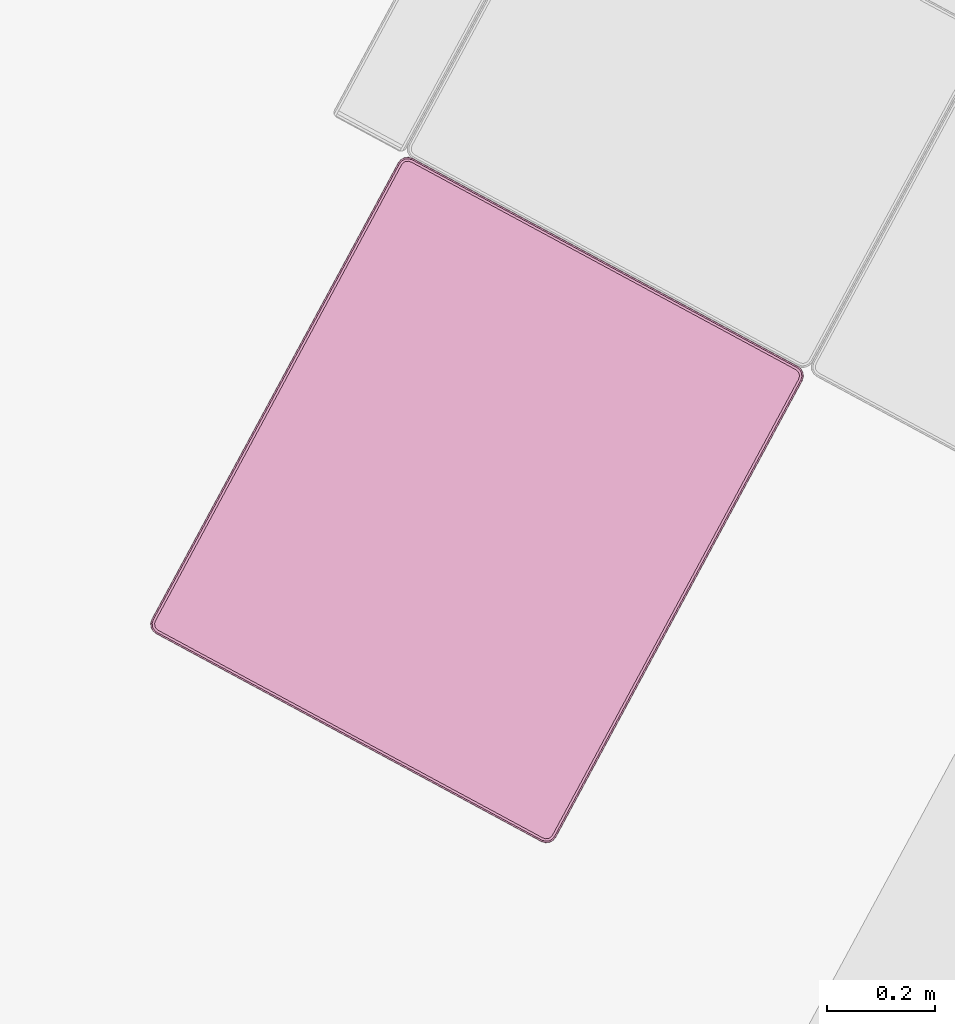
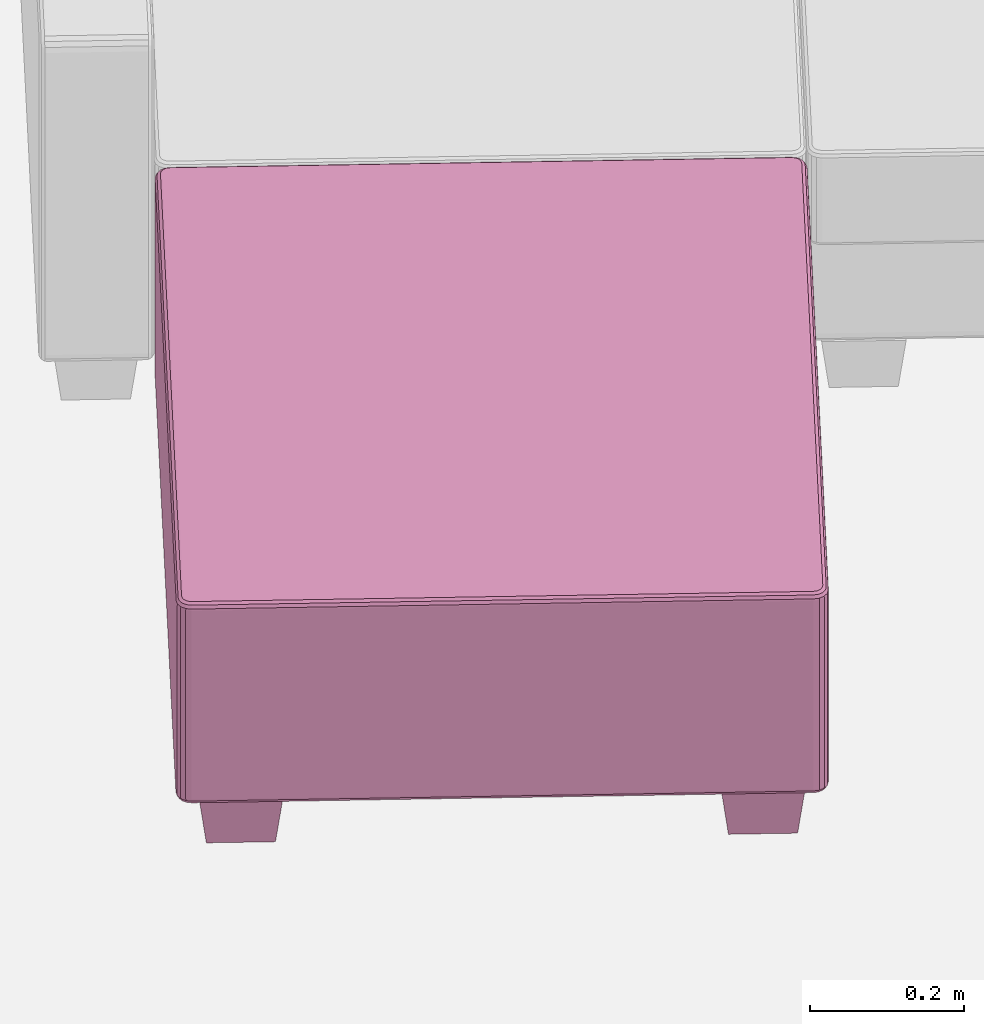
# One storey, part 28 of 36: 1 furnishing.
"""IFC2X3 building model written with IfcOpenShell, lengths in metres."""

from ifc_helpers import new_model, entity, si_unit, converted_unit, derived_unit, money_unit, direction, frame, origin_with_axes, place, context, subcontext, project, spatial, faceted_brep, type_object, element, save


model = new_model("IFC2X3")

# Units and contexts
model_context = context("Model", 3, precision=1e-05, world=origin_with_axes(), true_north=direction((0.0, 1.0)))
body_context = subcontext(model_context, "Body", "Model", "MODEL_VIEW")
ifc_project = project(units=[si_unit("LENGTHUNIT", "METRE"), si_unit("AREAUNIT", "SQUARE_METRE"), si_unit("VOLUMEUNIT", "CUBIC_METRE"), converted_unit("PLANEANGLEUNIT", "DEGREE", entity("IfcPlaneAngleMeasure", 0.0174532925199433), si_unit("PLANEANGLEUNIT", "RADIAN"), dimensions=[0, 0, 0, 0, 0, 0, 0]), money_unit("EUR"), converted_unit("TIMEUNIT", "Year", entity("IfcTimeMeasure", 31556926.0), si_unit("TIMEUNIT", "SECOND"), dimensions=[0, 0, 1, 0, 0, 0, 0]), si_unit("MASSUNIT", "GRAM", prefix="KILO"), si_unit("THERMODYNAMICTEMPERATUREUNIT", "DEGREE_CELSIUS"), si_unit("LUMINOUSINTENSITYUNIT", "LUMEN"), si_unit("ENERGYUNIT", "JOULE", prefix="MEGA"), derived_unit("THERMALCONDUCTANCEUNIT", [(si_unit("POWERUNIT", "WATT"), 1), (si_unit("LENGTHUNIT", "METRE"), -1), (si_unit("THERMODYNAMICTEMPERATUREUNIT", "KELVIN"), -1)]), derived_unit("SPECIFICHEATCAPACITYUNIT", [(si_unit("ENERGYUNIT", "JOULE"), 1), (si_unit("MASSUNIT", "GRAM", prefix="KILO"), -1), (si_unit("THERMODYNAMICTEMPERATUREUNIT", "KELVIN"), -1)]), derived_unit("MASSDENSITYUNIT", [(si_unit("MASSUNIT", "GRAM", prefix="KILO"), 1), (si_unit("VOLUMEUNIT", "CUBIC_METRE"), -1)])], contexts=[model_context])

# Site, building, storey
site_placement = place(None, frame((-3.949935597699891, 1.740105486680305, 0.0), z_axis=(0.0, 0.0, 1.0), x_axis=(0.8799804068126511, -0.475009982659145, 0.0)))
site = spatial("IfcSite", under=ifc_project, at=site_placement, Name="Gelände", CompositionType="ELEMENT")
building_placement = place(site_placement, origin_with_axes())
building = spatial("IfcBuilding", under=site, at=building_placement, Name="Gebäude", CompositionType="ELEMENT")
storey_placement = place(building_placement, origin_with_axes())
storey = spatial("IfcBuildingStorey", under=building, at=storey_placement, Name="Erdgeschoss", CompositionType="ELEMENT", Elevation=0.0)

# Furnishing
furniture_type = type_object("IfcFurnitureType", Name="Sofa Set 01 17", AssemblyPlace="NOTDEFINED")
furnishing_placement = place(storey_placement, frame((6.702306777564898, 4.766019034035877, 0.0), z_axis=(0.0, 0.0, 1.0), x_axis=(0.0, 1.0, 0.0)))
element("IfcFurnishingElement", 1, at=furnishing_placement, inside=storey, type_object=furniture_type, Name="Objekt-0089", ObjectType="FURNITURE", context=body_context, shape_type="Brep", body=[
    faceted_brep([(0.0, 0.02, 0.24), (-0.001522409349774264, 0.01234633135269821, 0.24), (-0.005857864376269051, 0.005857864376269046, 0.24), (-0.01234633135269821, 0.001522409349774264, 0.24), (-0.02, 0.0, 0.24), (-0.98, 0.0, 0.24), (-0.9876536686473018, 0.001522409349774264, 0.24), (-0.9941421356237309, 0.005857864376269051, 0.24), (-0.9984775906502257, 0.01234633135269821, 0.24), (-1.0, 0.02, 0.24), (-1.0, 0.8300048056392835, 0.24), (-0.9984775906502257, 0.8376584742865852, 0.24), (-0.9941421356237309, 0.8441469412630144, 0.24), (-0.9876536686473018, 0.8484823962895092, 0.24), (-0.98, 0.8500048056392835, 0.24), (-0.02, 0.8500048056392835, 0.24), (-0.01234633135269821, 0.8484823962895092, 0.24), (-0.005857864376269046, 0.8441469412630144, 0.24), (-0.001522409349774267, 0.8376584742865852, 0.24), (0.0, 0.8300048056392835, 0.24), (3.895163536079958e-10, 0.02000000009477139, 0.39), (-0.001522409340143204, 0.01234633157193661, 0.39), (-0.00585786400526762, 0.00585786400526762, 0.39), (-0.01234633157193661, 0.001522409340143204, 0.39), (-0.02000000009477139, -3.895163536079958e-10, 0.39), (-0.9800000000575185, -3.895163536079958e-10, 0.39), (-0.9876536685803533, 0.001522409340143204, 0.39), (-0.9941421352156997, 0.00585786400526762, 0.39), (-0.9984775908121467, 0.01234633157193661, 0.39), (-0.9999999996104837, 0.02000000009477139, 0.39), (-0.9999999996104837, 0.8300048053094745, 0.39), (-0.9984775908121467, 0.8376584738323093, 0.39), (-0.9941421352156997, 0.8441469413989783, 0.39), (-0.9876536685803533, 0.8484823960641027, 0.39), (-0.9800000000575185, 0.8500048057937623, 0.39), (-0.02000000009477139, 0.8500048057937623, 0.39), (-0.01234633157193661, 0.8484823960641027, 0.39), (-0.00585786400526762, 0.8441469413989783, 0.39), (-0.001522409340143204, 0.8376584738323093, 0.39), (3.895163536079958e-10, 0.8300048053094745, 0.39), (-0.0003407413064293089, 0.02003356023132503, 0.3925881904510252), (-0.001843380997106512, 0.01247928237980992, 0.3925881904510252), (-0.006103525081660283, 0.006103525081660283, 0.3925881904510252), (-0.01247928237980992, 0.001843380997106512, 0.3925881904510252), (-0.02003356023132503, 0.0003407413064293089, 0.3925881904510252), (-0.9799664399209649, 0.0003407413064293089, 0.3925881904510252), (-0.9875207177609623, 0.001843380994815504, 0.3925881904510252), (-0.993896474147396, 0.006103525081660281, 0.3925881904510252), (-0.9981566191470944, 0.01247928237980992, 0.3925881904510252), (-0.999659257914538, 0.02003356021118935, 0.3925881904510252), (-0.999659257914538, 0.8299712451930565, 0.3925881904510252), (-0.9981566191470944, 0.837525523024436, 0.3925881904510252), (-0.993896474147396, 0.8439012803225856, 0.3925881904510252), (-0.9875207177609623, 0.8481614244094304, 0.3925881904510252), (-0.9799664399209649, 0.8496640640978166, 0.3925881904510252), (-0.02003356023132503, 0.8496640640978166, 0.3925881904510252), (-0.01247928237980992, 0.8481614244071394, 0.3925881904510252), (-0.006103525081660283, 0.8439012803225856, 0.3925881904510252), (-0.001843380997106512, 0.837525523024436, 0.3925881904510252), (-0.0003407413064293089, 0.8299712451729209, 0.3925881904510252), (-0.002928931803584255, 0.02028847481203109, 0.3970710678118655), (-0.004281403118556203, 0.01348914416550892, 0.3970710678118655), (-0.007969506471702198, 0.007969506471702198, 0.3970710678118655), (-0.01348914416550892, 0.004281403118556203, 0.3970710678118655), (-0.02028847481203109, 0.002928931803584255, 0.3970710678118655), (-0.9797115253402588, 0.002928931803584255, 0.3970710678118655), (-0.9865108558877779, 0.004281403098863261, 0.3970710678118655), (-0.9920304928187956, 0.007969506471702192, 0.3970710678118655), (-0.9957185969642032, 0.0134891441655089, 0.3970710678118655), (-0.997071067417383, 0.02028847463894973, 0.3970710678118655), (-0.997071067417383, 0.8297163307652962, 0.3970710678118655), (-0.9957185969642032, 0.836515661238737, 0.3970710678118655), (-0.9920304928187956, 0.8420352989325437, 0.3970710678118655), (-0.9865108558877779, 0.8457234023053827, 0.3970710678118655), (-0.9797115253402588, 0.8470758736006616, 0.3970710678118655), (-0.02028847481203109, 0.8470758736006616, 0.3970710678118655), (-0.01348914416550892, 0.8457234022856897, 0.3970710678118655), (-0.007969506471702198, 0.8420352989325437, 0.3970710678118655), (-0.004281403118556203, 0.836515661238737, 0.3970710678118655), (-0.002928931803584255, 0.8297163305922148, 0.3970710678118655), (-0.007411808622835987, 0.02072999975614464, 0.3996592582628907), (-0.008504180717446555, 0.01523827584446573, 0.3996592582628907), (-0.01120148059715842, 0.01120148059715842, 0.3996592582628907), (-0.01523827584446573, 0.008504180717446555, 0.3996592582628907), (-0.02072999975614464, 0.007411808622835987, 0.3996592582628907), (-0.9792700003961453, 0.007411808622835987, 0.3996592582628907), (-0.9847617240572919, 0.008504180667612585, 0.3996592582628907), (-0.9887985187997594, 0.0112014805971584, 0.3996592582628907), (-0.9914958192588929, 0.0152382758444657, 0.3996592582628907), (-0.9925881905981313, 0.02072999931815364, 0.3996592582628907), (-0.9925881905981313, 0.8292748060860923, 0.3996592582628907), (-0.9914958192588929, 0.8347665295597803, 0.3996592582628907), (-0.9887985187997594, 0.8388033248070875, 0.3996592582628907), (-0.9847617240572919, 0.8415006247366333, 0.3996592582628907), (-0.9792700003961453, 0.8425929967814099, 0.3996592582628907), (-0.02072999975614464, 0.8425929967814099, 0.3996592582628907), (-0.01523827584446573, 0.8415006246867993, 0.3996592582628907), (-0.01120148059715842, 0.8388033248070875, 0.3996592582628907), (-0.008504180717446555, 0.8347665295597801, 0.3996592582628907), (-0.007411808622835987, 0.8292748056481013, 0.3996592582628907), (-0.01000000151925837, 0.02098491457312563, 0.4000000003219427), (-0.01094220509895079, 0.01624813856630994, 0.4000000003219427), (-0.01306746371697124, 0.01306746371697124, 0.4000000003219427), (-0.01624813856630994, 0.01094220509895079, 0.4000000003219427), (-0.02098491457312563, 0.01000000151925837, 0.4000000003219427), (-0.9790150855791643, 0.01000000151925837, 0.4000000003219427), (-0.9837518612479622, 0.01094220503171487, 0.4000000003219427), (-0.9869325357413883, 0.01306746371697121, 0.4000000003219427), (-0.989057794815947, 0.01624813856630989, 0.4000000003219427), (-0.989999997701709, 0.02098491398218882, 0.4000000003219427), (-0.989999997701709, 0.8290198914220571, 0.4000000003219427), (-0.989057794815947, 0.833756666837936, 0.4000000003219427), (-0.9869325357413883, 0.8369373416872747, 0.4000000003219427), (-0.9837518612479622, 0.839062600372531, 0.4000000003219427), (-0.9790150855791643, 0.8400048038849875, 0.4000000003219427), (-0.02098491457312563, 0.8400048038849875, 0.4000000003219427), (-0.01624813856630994, 0.8390626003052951, 0.4000000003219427), (-0.01306746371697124, 0.8369373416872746, 0.4000000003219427), (-0.01094220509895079, 0.8337566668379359, 0.4000000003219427), (-0.01000000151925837, 0.8290198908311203, 0.4000000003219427)], [[[0, 1, 2, 3, 4, 5, 6, 7, 8, 9, 10, 11, 12, 13, 14, 15, 16, 17, 18, 19]], [[0, 20, 21, 1]], [[1, 21, 22, 2]], [[2, 22, 23, 3]], [[3, 23, 24, 4]], [[4, 24, 25, 5]], [[5, 25, 26, 6]], [[6, 26, 27, 7]], [[7, 27, 28, 8]], [[8, 28, 29, 9]], [[9, 29, 30, 10]], [[10, 30, 31, 11]], [[11, 31, 32, 12]], [[12, 32, 33, 13]], [[13, 33, 34, 14]], [[14, 34, 35, 15]], [[15, 35, 36, 16]], [[16, 36, 37, 17]], [[17, 37, 38, 18]], [[18, 38, 39, 19]], [[19, 39, 20, 0]], [[20, 40, 41, 21]], [[21, 41, 42, 22]], [[22, 42, 43, 23]], [[23, 43, 44, 24]], [[24, 44, 45, 25]], [[25, 45, 46, 26]], [[26, 46, 47, 27]], [[27, 47, 48, 28]], [[28, 48, 49, 29]], [[29, 49, 50, 30]], [[30, 50, 51, 31]], [[31, 51, 52, 32]], [[32, 52, 53, 33]], [[33, 53, 54, 34]], [[34, 54, 55, 35]], [[35, 55, 56, 36]], [[36, 56, 57, 37]], [[37, 57, 58, 38]], [[38, 58, 59, 39]], [[39, 59, 40, 20]], [[40, 60, 61, 41]], [[41, 61, 62, 42]], [[42, 62, 63, 43]], [[43, 63, 64, 44]], [[44, 64, 65, 45]], [[45, 65, 66, 46]], [[46, 66, 67, 47]], [[47, 67, 68, 48]], [[48, 68, 69, 49]], [[49, 69, 70, 50]], [[50, 70, 71, 51]], [[51, 71, 72, 52]], [[52, 72, 73, 53]], [[53, 73, 74, 54]], [[54, 74, 75, 55]], [[55, 75, 76, 56]], [[56, 76, 77, 57]], [[57, 77, 78, 58]], [[58, 78, 79, 59]], [[59, 79, 60, 40]], [[60, 80, 81, 61]], [[61, 81, 82, 62]], [[62, 82, 83, 63]], [[63, 83, 84, 64]], [[64, 84, 85, 65]], [[65, 85, 86, 66]], [[66, 86, 87, 67]], [[67, 87, 88, 68]], [[68, 88, 89, 69]], [[69, 89, 90, 70]], [[70, 90, 91, 71]], [[71, 91, 92, 72]], [[72, 92, 93, 73]], [[73, 93, 94, 74]], [[74, 94, 95, 75]], [[75, 95, 96, 76]], [[76, 96, 97, 77]], [[77, 97, 98, 78]], [[78, 98, 99, 79]], [[79, 99, 80, 60]], [[80, 100, 101, 81]], [[81, 101, 102, 82]], [[82, 102, 103, 83]], [[83, 103, 104, 84]], [[84, 104, 105, 85]], [[85, 105, 106, 86]], [[86, 106, 107, 87]], [[87, 107, 108, 88]], [[88, 108, 109, 89]], [[89, 109, 110, 90]], [[90, 110, 111, 91]], [[91, 111, 112, 92]], [[92, 112, 113, 93]], [[93, 113, 114, 94]], [[94, 114, 115, 95]], [[95, 115, 116, 96]], [[96, 116, 117, 97]], [[97, 117, 118, 98]], [[98, 118, 119, 99]], [[99, 119, 100, 80]], [[118, 117, 116, 115, 114, 113, 112, 111, 110, 109, 108, 107, 106, 105, 104, 103, 102, 101, 100, 119]]]),
    faceted_brep([(0.0, 0.02, 0.24), (0.0, 0.8300048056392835, 0.24), (-0.001522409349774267, 0.8376584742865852, 0.24), (-0.005857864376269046, 0.8441469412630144, 0.24), (-0.01234633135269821, 0.8484823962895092, 0.24), (-0.02, 0.8500048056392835, 0.24), (-0.98, 0.8500048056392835, 0.24), (-0.9876536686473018, 0.8484823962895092, 0.24), (-0.9941421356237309, 0.8441469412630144, 0.24), (-0.9984775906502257, 0.8376584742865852, 0.24), (-1.0, 0.8300048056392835, 0.24), (-1.0, 0.02, 0.24), (-0.9984775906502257, 0.01234633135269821, 0.24), (-0.9941421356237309, 0.005857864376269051, 0.24), (-0.9876536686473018, 0.001522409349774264, 0.24), (-0.98, 0.0, 0.24), (-0.02, 0.0, 0.24), (-0.01234633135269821, 0.001522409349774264, 0.24), (-0.005857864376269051, 0.005857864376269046, 0.24), (-0.001522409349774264, 0.01234633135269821, 0.24), (3.895163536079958e-10, 0.02000000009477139, 0.09), (3.895163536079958e-10, 0.8300048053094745, 0.09), (-0.001522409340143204, 0.8376584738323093, 0.09), (-0.00585786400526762, 0.8441469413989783, 0.09), (-0.01234633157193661, 0.8484823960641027, 0.09), (-0.02000000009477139, 0.8500048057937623, 0.09), (-0.9800000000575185, 0.8500048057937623, 0.09), (-0.9876536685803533, 0.8484823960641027, 0.09), (-0.9941421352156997, 0.8441469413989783, 0.09), (-0.9984775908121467, 0.8376584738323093, 0.09), (-0.9999999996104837, 0.8300048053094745, 0.09), (-0.9999999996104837, 0.02000000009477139, 0.09), (-0.9984775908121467, 0.01234633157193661, 0.09), (-0.9941421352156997, 0.00585786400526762, 0.09), (-0.9876536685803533, 0.001522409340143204, 0.09), (-0.9800000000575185, -3.895163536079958e-10, 0.09), (-0.02000000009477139, -3.895163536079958e-10, 0.09), (-0.01234633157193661, 0.001522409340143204, 0.09), (-0.00585786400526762, 0.00585786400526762, 0.09), (-0.001522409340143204, 0.01234633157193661, 0.09), (-0.0003407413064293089, 0.02003356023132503, 0.08741180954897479), (-0.0003407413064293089, 0.8299712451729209, 0.08741180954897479), (-0.001843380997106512, 0.837525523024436, 0.08741180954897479), (-0.006103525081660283, 0.8439012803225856, 0.08741180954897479), (-0.01247928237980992, 0.8481614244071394, 0.08741180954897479), (-0.02003356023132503, 0.8496640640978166, 0.08741180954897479), (-0.9799664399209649, 0.8496640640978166, 0.08741180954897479), (-0.9875207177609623, 0.8481614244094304, 0.08741180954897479), (-0.993896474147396, 0.8439012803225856, 0.08741180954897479), (-0.9981566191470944, 0.837525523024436, 0.08741180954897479), (-0.999659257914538, 0.8299712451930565, 0.08741180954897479), (-0.999659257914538, 0.02003356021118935, 0.08741180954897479), (-0.9981566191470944, 0.01247928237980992, 0.08741180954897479), (-0.993896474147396, 0.006103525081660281, 0.08741180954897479), (-0.9875207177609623, 0.001843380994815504, 0.08741180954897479), (-0.9799664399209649, 0.0003407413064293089, 0.08741180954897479), (-0.02003356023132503, 0.0003407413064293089, 0.08741180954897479), (-0.01247928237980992, 0.001843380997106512, 0.08741180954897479), (-0.006103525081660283, 0.006103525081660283, 0.08741180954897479), (-0.001843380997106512, 0.01247928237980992, 0.08741180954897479), (-0.002928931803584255, 0.02028847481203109, 0.08292893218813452), (-0.002928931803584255, 0.8297163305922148, 0.08292893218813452), (-0.004281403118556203, 0.836515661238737, 0.08292893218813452), (-0.007969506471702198, 0.8420352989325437, 0.08292893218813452), (-0.01348914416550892, 0.8457234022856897, 0.08292893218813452), (-0.02028847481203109, 0.8470758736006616, 0.08292893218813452), (-0.9797115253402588, 0.8470758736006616, 0.08292893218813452), (-0.9865108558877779, 0.8457234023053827, 0.08292893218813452), (-0.9920304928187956, 0.8420352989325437, 0.08292893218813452), (-0.9957185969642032, 0.836515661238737, 0.08292893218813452), (-0.997071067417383, 0.8297163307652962, 0.08292893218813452), (-0.997071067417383, 0.02028847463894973, 0.08292893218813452), (-0.9957185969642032, 0.0134891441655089, 0.08292893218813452), (-0.9920304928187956, 0.007969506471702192, 0.08292893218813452), (-0.9865108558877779, 0.004281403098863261, 0.08292893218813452), (-0.9797115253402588, 0.002928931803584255, 0.08292893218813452), (-0.02028847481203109, 0.002928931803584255, 0.08292893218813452), (-0.01348914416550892, 0.004281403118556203, 0.08292893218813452), (-0.007969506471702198, 0.007969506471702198, 0.08292893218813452), (-0.004281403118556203, 0.01348914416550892, 0.08292893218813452), (-0.007411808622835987, 0.02072999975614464, 0.08034074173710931), (-0.007411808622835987, 0.8292748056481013, 0.08034074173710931), (-0.008504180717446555, 0.8347665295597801, 0.08034074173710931), (-0.01120148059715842, 0.8388033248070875, 0.08034074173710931), (-0.01523827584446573, 0.8415006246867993, 0.08034074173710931), (-0.02072999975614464, 0.8425929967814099, 0.08034074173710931), (-0.9792700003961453, 0.8425929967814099, 0.08034074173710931), (-0.9847617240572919, 0.8415006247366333, 0.08034074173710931), (-0.9887985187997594, 0.8388033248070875, 0.08034074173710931), (-0.9914958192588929, 0.8347665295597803, 0.08034074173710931), (-0.9925881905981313, 0.8292748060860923, 0.08034074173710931), (-0.9925881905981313, 0.02072999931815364, 0.08034074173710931), (-0.9914958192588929, 0.0152382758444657, 0.08034074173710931), (-0.9887985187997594, 0.0112014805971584, 0.08034074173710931), (-0.9847617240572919, 0.008504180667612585, 0.08034074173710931), (-0.9792700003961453, 0.007411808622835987, 0.08034074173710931), (-0.02072999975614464, 0.007411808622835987, 0.08034074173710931), (-0.01523827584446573, 0.008504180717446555, 0.08034074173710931), (-0.01120148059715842, 0.01120148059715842, 0.08034074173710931), (-0.008504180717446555, 0.01523827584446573, 0.08034074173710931), (-0.01000000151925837, 0.02098491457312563, 0.07999999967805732), (-0.01000000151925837, 0.8290198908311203, 0.07999999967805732), (-0.01094220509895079, 0.8337566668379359, 0.07999999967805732), (-0.01306746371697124, 0.8369373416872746, 0.07999999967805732), (-0.01624813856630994, 0.8390626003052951, 0.07999999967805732), (-0.02098491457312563, 0.8400048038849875, 0.07999999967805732), (-0.9790150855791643, 0.8400048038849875, 0.07999999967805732), (-0.9837518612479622, 0.839062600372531, 0.07999999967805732), (-0.9869325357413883, 0.8369373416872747, 0.07999999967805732), (-0.989057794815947, 0.833756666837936, 0.07999999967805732), (-0.989999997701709, 0.8290198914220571, 0.07999999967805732), (-0.989999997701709, 0.02098491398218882, 0.07999999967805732), (-0.989057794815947, 0.01624813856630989, 0.07999999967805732), (-0.9869325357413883, 0.01306746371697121, 0.07999999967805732), (-0.9837518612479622, 0.01094220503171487, 0.07999999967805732), (-0.9790150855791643, 0.01000000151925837, 0.07999999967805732), (-0.02098491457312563, 0.01000000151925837, 0.07999999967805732), (-0.01624813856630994, 0.01094220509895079, 0.07999999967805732), (-0.01306746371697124, 0.01306746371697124, 0.07999999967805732), (-0.01094220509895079, 0.01624813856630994, 0.07999999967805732)], [[[0, 1, 2, 3, 4, 5, 6, 7, 8, 9, 10, 11, 12, 13, 14, 15, 16, 17, 18, 19]], [[1, 0, 20, 21]], [[2, 1, 21, 22]], [[3, 2, 22, 23]], [[4, 3, 23, 24]], [[5, 4, 24, 25]], [[6, 5, 25, 26]], [[7, 6, 26, 27]], [[8, 7, 27, 28]], [[9, 8, 28, 29]], [[10, 9, 29, 30]], [[11, 10, 30, 31]], [[12, 11, 31, 32]], [[13, 12, 32, 33]], [[14, 13, 33, 34]], [[15, 14, 34, 35]], [[16, 15, 35, 36]], [[17, 16, 36, 37]], [[18, 17, 37, 38]], [[19, 18, 38, 39]], [[0, 19, 39, 20]], [[21, 20, 40, 41]], [[22, 21, 41, 42]], [[23, 22, 42, 43]], [[24, 23, 43, 44]], [[25, 24, 44, 45]], [[26, 25, 45, 46]], [[27, 26, 46, 47]], [[28, 27, 47, 48]], [[29, 28, 48, 49]], [[30, 29, 49, 50]], [[31, 30, 50, 51]], [[32, 31, 51, 52]], [[33, 32, 52, 53]], [[34, 33, 53, 54]], [[35, 34, 54, 55]], [[36, 35, 55, 56]], [[37, 36, 56, 57]], [[38, 37, 57, 58]], [[39, 38, 58, 59]], [[20, 39, 59, 40]], [[41, 40, 60, 61]], [[42, 41, 61, 62]], [[43, 42, 62, 63]], [[44, 43, 63, 64]], [[45, 44, 64, 65]], [[46, 45, 65, 66]], [[47, 46, 66, 67]], [[48, 47, 67, 68]], [[49, 48, 68, 69]], [[50, 49, 69, 70]], [[51, 50, 70, 71]], [[52, 51, 71, 72]], [[53, 52, 72, 73]], [[54, 53, 73, 74]], [[55, 54, 74, 75]], [[56, 55, 75, 76]], [[57, 56, 76, 77]], [[58, 57, 77, 78]], [[59, 58, 78, 79]], [[40, 59, 79, 60]], [[61, 60, 80, 81]], [[62, 61, 81, 82]], [[63, 62, 82, 83]], [[64, 63, 83, 84]], [[65, 64, 84, 85]], [[66, 65, 85, 86]], [[67, 66, 86, 87]], [[68, 67, 87, 88]], [[69, 68, 88, 89]], [[70, 69, 89, 90]], [[71, 70, 90, 91]], [[72, 71, 91, 92]], [[73, 72, 92, 93]], [[74, 73, 93, 94]], [[75, 74, 94, 95]], [[76, 75, 95, 96]], [[77, 76, 96, 97]], [[78, 77, 97, 98]], [[79, 78, 98, 99]], [[60, 79, 99, 80]], [[81, 80, 100, 101]], [[82, 81, 101, 102]], [[83, 82, 102, 103]], [[84, 83, 103, 104]], [[85, 84, 104, 105]], [[86, 85, 105, 106]], [[87, 86, 106, 107]], [[88, 87, 107, 108]], [[89, 88, 108, 109]], [[90, 89, 109, 110]], [[91, 90, 110, 111]], [[92, 91, 111, 112]], [[93, 92, 112, 113]], [[94, 93, 113, 114]], [[95, 94, 114, 115]], [[96, 95, 115, 116]], [[97, 96, 116, 117]], [[98, 97, 117, 118]], [[99, 98, 118, 119]], [[80, 99, 119, 100]], [[102, 101, 100, 119, 118, 117, 116, 115, 114, 113, 112, 111, 110, 109, 108, 107, 106, 105, 104, 103]]]),
    faceted_brep([(-0.12, 0.04, 0.0), (-0.13, 0.02999999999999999, 0.08), (-0.13, 0.14, 0.08), (-0.12, 0.13, 0.0), (-0.03000000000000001, 0.04000000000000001, 0.0), (-0.02, 0.03000000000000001, 0.08), (-0.02, 0.14, 0.08), (-0.03000000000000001, 0.13, 0.0)], [[[0, 1, 2, 3]], [[4, 5, 1, 0]], [[1, 5, 6, 2]], [[3, 2, 6, 7]], [[0, 3, 7, 4]], [[7, 6, 5, 4]]]),
    faceted_brep([(-0.12, 0.7200048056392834, 0.0), (-0.13, 0.7100048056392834, 0.08), (-0.13, 0.8200048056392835, 0.08), (-0.12, 0.8100048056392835, 0.0), (-0.03000000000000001, 0.7200048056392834, 0.0), (-0.02, 0.7100048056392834, 0.08), (-0.02, 0.8200048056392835, 0.08), (-0.03000000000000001, 0.8100048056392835, 0.0)], [[[0, 1, 2, 3]], [[4, 5, 1, 0]], [[1, 5, 6, 2]], [[3, 2, 6, 7]], [[0, 3, 7, 4]], [[7, 6, 5, 4]]]),
    faceted_brep([(-0.9700000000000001, 0.7200048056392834, 0.0), (-0.9800000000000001, 0.7100048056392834, 0.08), (-0.9800000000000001, 0.8200048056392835, 0.08), (-0.9700000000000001, 0.8100048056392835, 0.0), (-0.88, 0.7200048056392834, 0.0), (-0.87, 0.7100048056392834, 0.08), (-0.87, 0.8200048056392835, 0.08), (-0.88, 0.8100048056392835, 0.0)], [[[0, 1, 2, 3]], [[4, 5, 1, 0]], [[1, 5, 6, 2]], [[3, 2, 6, 7]], [[0, 3, 7, 4]], [[7, 6, 5, 4]]]),
    faceted_brep([(-0.9700000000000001, 0.03999999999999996, 0.0), (-0.9800000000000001, 0.02999999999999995, 0.08), (-0.9800000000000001, 0.14, 0.08), (-0.9700000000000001, 0.1299999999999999, 0.0), (-0.88, 0.03999999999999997, 0.0), (-0.87, 0.02999999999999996, 0.08), (-0.87, 0.14, 0.08), (-0.88, 0.1299999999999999, 0.0)], [[[0, 1, 2, 3]], [[4, 5, 1, 0]], [[1, 5, 6, 2]], [[3, 2, 6, 7]], [[0, 3, 7, 4]], [[7, 6, 5, 4]]]),
])

save(model, "model.ifc")
